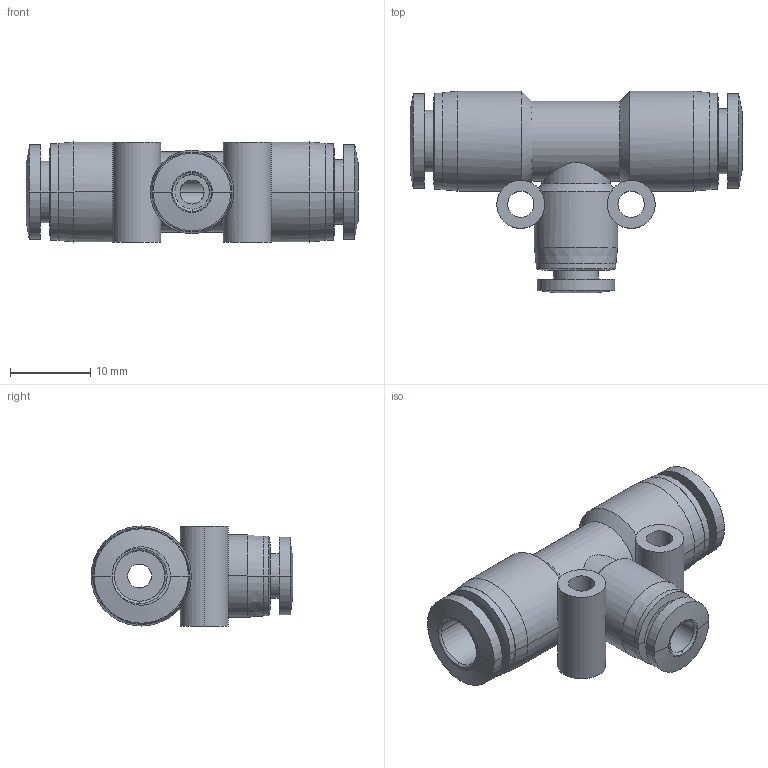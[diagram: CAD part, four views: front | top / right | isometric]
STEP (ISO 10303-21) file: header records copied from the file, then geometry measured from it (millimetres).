
FILE_DESCRIPTION (( 'STEP AP203' ), '1' );
FILE_NAME ('FRT04-06.STEP', '2020-05-12T19:23:39', ( '' ), ( '' ), 'SwSTEP 2.0', 'SolidWorks 2019', '' );
FILE_SCHEMA (( 'CONFIG_CONTROL_DESIGN' ));
Length unit declared in the file: millimetre
Products named in the file (1): FRT04-06
Bounding box: 41.5 x 25.2 x 12.5 mm (x, y, z)
Volume: 4447 mm3; surface area: 4041.8 mm2
Topology: 1 solids, 1 shells, 94 faces, 224 edges, 138 vertices
Faces by surface type: cylinder 46, cone 24, plane 18, bspline 6
Entity records: 3600 total; most frequent: CARTESIAN_POINT 1320, DIRECTION 488, ORIENTED_EDGE 448, EDGE_CURVE 224, AXIS2_PLACEMENT_3D 207, VERTEX_POINT 138, CIRCLE 118, EDGE_LOOP 112
